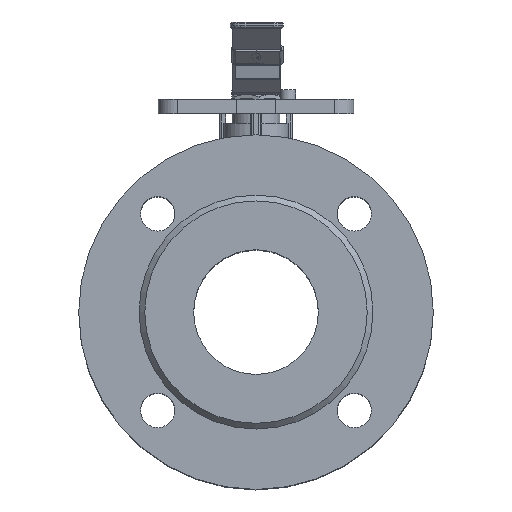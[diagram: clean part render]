
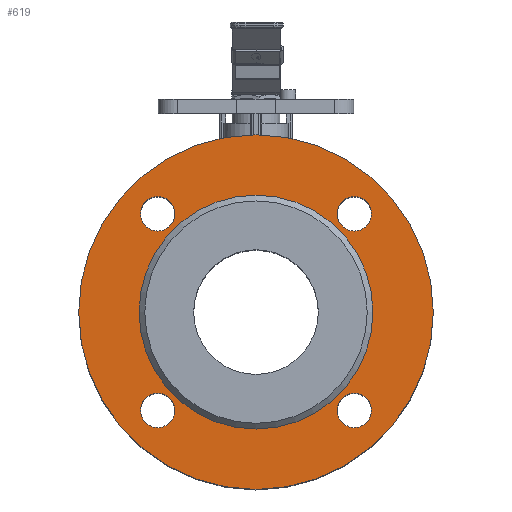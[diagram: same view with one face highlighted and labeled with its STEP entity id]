
A CAD part, top view. The second image highlights one B-rep face of the part: STEP entity #619.
In plain terms, the highlighted planar face has unit normal (0, 0, 1).
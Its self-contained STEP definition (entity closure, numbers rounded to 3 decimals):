
#619=ADVANCED_FACE('',(#4610,#4612,#4614,#4616,#4618,#4620),#4622,.T.);
#4610=FACE_BOUND('',#4611,.T.);
#4611=EDGE_LOOP('',(#11641));
#4612=FACE_BOUND('',#4613,.T.);
#4613=EDGE_LOOP('',(#11642));
#4614=FACE_BOUND('',#4615,.T.);
#4615=EDGE_LOOP('',(#11643));
#4616=FACE_BOUND('',#4617,.T.);
#4617=EDGE_LOOP('',(#11644));
#4618=FACE_BOUND('',#4619,.T.);
#4619=EDGE_LOOP('',(#11645));
#4620=FACE_BOUND('',#4621,.T.);
#4621=EDGE_LOOP('',(#11646));
#4622=PLANE('',#4623);
#4623=AXIS2_PLACEMENT_3D('',#4624,#4625,#4626);
#4624=CARTESIAN_POINT('',(0.,0.,70.577));
#4625=DIRECTION('',(0.,0.,1.));
#4626=DIRECTION('',(0.,1.,0.));
#11641=ORIENTED_EDGE('',*,*,#14690,.F.);
#11642=ORIENTED_EDGE('',*,*,#14691,.T.);
#11643=ORIENTED_EDGE('',*,*,#14692,.T.);
#11644=ORIENTED_EDGE('',*,*,#14693,.T.);
#11645=ORIENTED_EDGE('',*,*,#14628,.T.);
#11646=ORIENTED_EDGE('',*,*,#14694,.T.);
#14628=EDGE_CURVE('',#16487,#16487,#16488,.T.);
#14690=EDGE_CURVE('',#16599,#16599,#16600,.T.);
#14691=EDGE_CURVE('',#16601,#16601,#16602,.F.);
#14692=EDGE_CURVE('',#16603,#16603,#16604,.F.);
#14693=EDGE_CURVE('',#16605,#16605,#16606,.F.);
#14694=EDGE_CURVE('',#16607,#16607,#16608,.F.);
#16487=VERTEX_POINT('',#22290);
#16488=CIRCLE('',#22291,61.);
#16599=VERTEX_POINT('',#22544);
#16600=CIRCLE('',#22545,92.5);
#16601=VERTEX_POINT('',#22549);
#16602=CIRCLE('',#22550,9.);
#16603=VERTEX_POINT('',#22554);
#16604=CIRCLE('',#22555,9.);
#16605=VERTEX_POINT('',#22559);
#16606=CIRCLE('',#22560,9.);
#16607=VERTEX_POINT('',#22564);
#16608=CIRCLE('',#22565,9.);
#22290=CARTESIAN_POINT('',(0.,61.,70.577));
#22291=AXIS2_PLACEMENT_3D('',#22292,#22293,#22294);
#22292=CARTESIAN_POINT('',(0.,0.,70.577));
#22293=DIRECTION('',(0.,0.,-1.));
#22294=DIRECTION('',(0.,1.,0.));
#22544=CARTESIAN_POINT('',(0.,92.5,70.577));
#22545=AXIS2_PLACEMENT_3D('',#22546,#22547,#22548);
#22546=CARTESIAN_POINT('',(0.,0.,70.577));
#22547=DIRECTION('',(0.,0.,-1.));
#22548=DIRECTION('',(0.,1.,0.));
#22549=CARTESIAN_POINT('',(51.265,42.265,70.577));
#22550=AXIS2_PLACEMENT_3D('',#22551,#22552,#22553);
#22551=CARTESIAN_POINT('',(51.265,51.265,70.577));
#22552=DIRECTION('',(0.,0.,1.));
#22553=DIRECTION('',(0.,-1.,0.));
#22554=CARTESIAN_POINT('',(42.265,-51.265,70.577));
#22555=AXIS2_PLACEMENT_3D('',#22556,#22557,#22558);
#22556=CARTESIAN_POINT('',(51.265,-51.265,70.577));
#22557=DIRECTION('',(0.,0.,1.));
#22558=DIRECTION('',(-1.,0.,0.));
#22559=CARTESIAN_POINT('',(-51.265,-42.265,70.577));
#22560=AXIS2_PLACEMENT_3D('',#22561,#22562,#22563);
#22561=CARTESIAN_POINT('',(-51.265,-51.265,70.577));
#22562=DIRECTION('',(0.,0.,1.));
#22563=DIRECTION('',(0.,1.,0.));
#22564=CARTESIAN_POINT('',(-42.265,51.265,70.577));
#22565=AXIS2_PLACEMENT_3D('',#22566,#22567,#22568);
#22566=CARTESIAN_POINT('',(-51.265,51.265,70.577));
#22567=DIRECTION('',(0.,0.,1.));
#22568=DIRECTION('',(1.,0.,0.));
